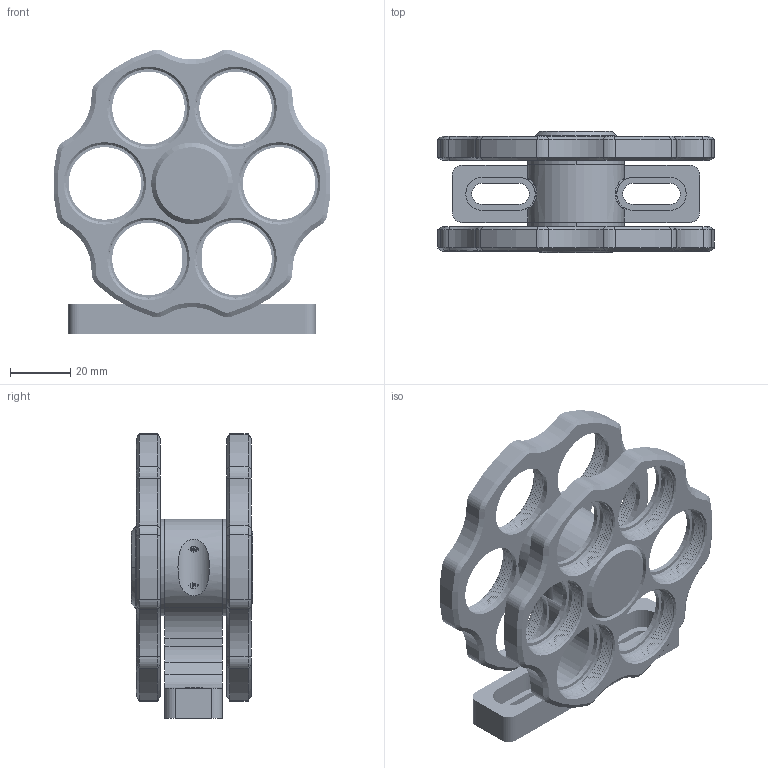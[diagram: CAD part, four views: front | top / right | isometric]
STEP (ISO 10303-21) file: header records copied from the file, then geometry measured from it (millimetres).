
FILE_DESCRIPTION((''),'2;1');
FILE_NAME('FWO-A2_ASM','2020-10-20T',('Administrator'),(''),'CREO PARAMETRIC BY PTC INC, 2015290','CREO PARAMETRIC BY PTC INC, 2015290','');
FILE_SCHEMA(('CONFIG_CONTROL_DESIGN'));
Products named in the file (7): FWO-A_A1; M5X12_HSB; FWO-A_A2; FWO-A_A4; SPACER_14X1; FWO-A_A7; FWO-A2_ASM
Assembly tree (15 placements, depth 2):
  FWO-A2_ASM
    FWO-A_A1
    M5X12_HSB  x6
    FWO-A_A2  x2
    FWO-A_A4  x2
    SPACER_14X1  x2
    FWO-A_A7  x2
Bounding box: 91.71 x 40.1 x 94.31 mm (x, y, z)
Volume: 79637.9 mm3; surface area: 47423.2 mm2
Topology: 15 solids, 15 shells, 1585 faces, 4141 edges, 2634 vertices
Faces by surface type: cylinder 901, bspline 306, cone 204, plane 126, sphere 48
Entity records: 67634 total; most frequent: CARTESIAN_POINT 46087, ORIENTED_EDGE 5116, DIRECTION 3368, EDGE_CURVE 2558, VERTEX_POINT 1638, AXIS2_PLACEMENT_3D 1227, B_SPLINE_CURVE_WITH_KNOTS 1208, EDGE_LOOP 1030
